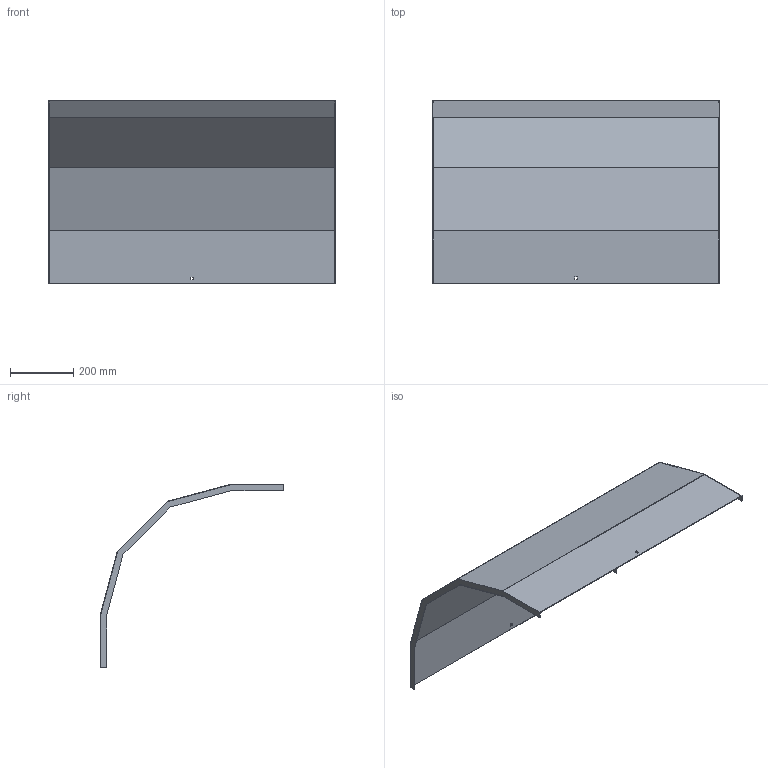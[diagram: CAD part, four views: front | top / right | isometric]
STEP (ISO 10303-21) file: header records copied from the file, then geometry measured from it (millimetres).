
FILE_DESCRIPTION (( 'STEP AP214' ), '1' );
FILE_NAME ('A2_33N3J900.step', '2025-02-21T10:45:52', ( '' ), ( '' ), 'SwSTEP 2.0', 'SolidWorks 2023', '' );
FILE_SCHEMA (( 'AUTOMOTIVE_DESIGN' ));
Length unit declared in the file: millimetre
Products named in the file (1): A2_33N3J900
Bounding box: 903 x 579.05 x 579.05 mm (x, y, z)
Volume: 1367722.1 mm3; surface area: 1829366.1 mm2
Topology: 1 solids, 1 shells, 34 faces, 96 edges, 64 vertices
Faces by surface type: plane 34
Entity records: 1111 total; most frequent: CARTESIAN_POINT 195, ORIENTED_EDGE 192, DIRECTION 166, VECTOR 96, EDGE_CURVE 96, LINE 96, VERTEX_POINT 64, EDGE_LOOP 38
